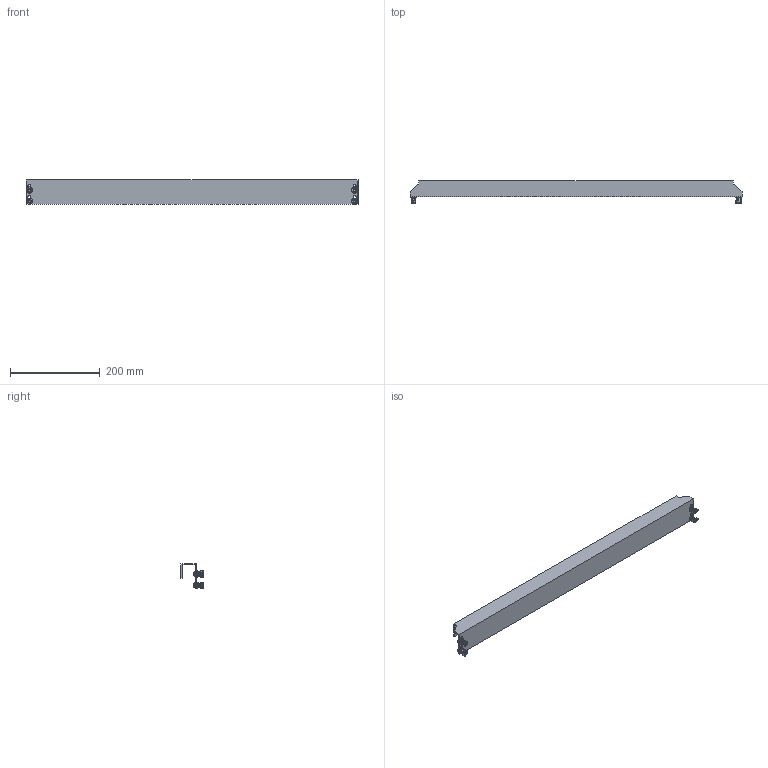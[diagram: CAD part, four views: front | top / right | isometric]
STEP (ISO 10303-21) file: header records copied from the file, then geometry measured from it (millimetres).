
FILE_DESCRIPTION(('Open CASCADE Model'),'2;1');
FILE_NAME('Open CASCADE Shape Model','2025-02-20T14:06:08',('Author'),( 'Open CASCADE'),'Open CASCADE STEP processor 7.8','Open CASCADE 7.8' ,'Unknown');
FILE_SCHEMA(('AUTOMOTIVE_DESIGN { 1 0 10303 214 1 1 1 1 }'));
Length unit declared in the file: millimetre
Products named in the file (4): Compound1; Solid1; Solid2; Solid3
Assembly tree (9 placements, depth 2):
  Compound1
    Solid1
    Solid2  x4
    Solid3  x4
Bounding box: 740 x 50 x 55.58 mm (x, y, z)
Volume: 248768.9 mm3; surface area: 179671.1 mm2
Topology: 13 solids, 13 shells, 894 faces, 2360 edges, 1484 vertices
Faces by surface type: plane 408, cylinder 218, bspline 168, torus 56, cone 40, sphere 4
Full cylindrical faces by diameter (mm): 6 x4, 6.5 x4, 8.3 x4, 12 x4
Entity records: 14190 total; most frequent: CARTESIAN_POINT 5738, ORIENTED_EDGE 1826, DIRECTION 1612, EDGE_CURVE 913, VERTEX_POINT 587, AXIS2_PLACEMENT_3D 552, LINE 508, VECTOR 508
